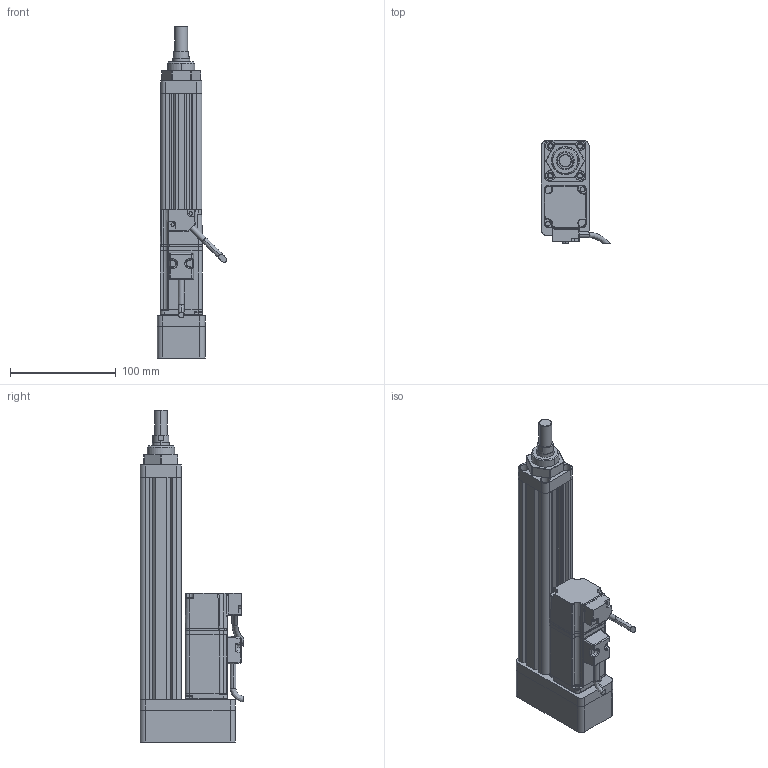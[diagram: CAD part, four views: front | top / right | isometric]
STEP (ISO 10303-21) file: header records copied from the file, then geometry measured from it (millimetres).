
FILE_DESCRIPTION (( 'STEP AP214' ), '1' );
FILE_NAME ('039-S150-D02-B-M4-C1-2.STEP', '2021-02-25T08:54:13', ( '' ), ( '' ), 'SwSTEP 2.0', 'SolidWorks 2018', '' );
FILE_SCHEMA (( 'AUTOMOTIVE_DESIGN' ));
Length unit declared in the file: millimetre
Products named in the file (8): CMC039-FL; 039-S150-D02-B-M4-C1-2; CMC039-HXT; CMC039-M261; CMC039-DT; ECMA-CX0401ES-40框號系列機種-100W低慣量系列; CMC039-LJB; CMC039-GT
Assembly tree (7 placements, depth 2):
  039-S150-D02-B-M4-C1-2
    CMC039-GT
    CMC039-LJB
    CMC039-FL
    CMC039-DT
    ECMA-CX0401ES-40框號系列機種-100W低慣量系列
    CMC039-M261
    CMC039-HXT
Bounding box: 65.34 x 97.89 x 314 mm (x, y, z)
Volume: 468025.1 mm3; surface area: 145026.8 mm2
Topology: 7 solids, 15 shells, 700 faces, 1816 edges, 1128 vertices
Faces by surface type: cylinder 287, plane 270, bspline 84, cone 59
Entity records: 27587 total; most frequent: CARTESIAN_POINT 11136, ORIENTED_EDGE 3566, DIRECTION 2952, EDGE_CURVE 1783, VERTEX_POINT 1128, AXIS2_PLACEMENT_3D 1031, LINE 890, VECTOR 890
